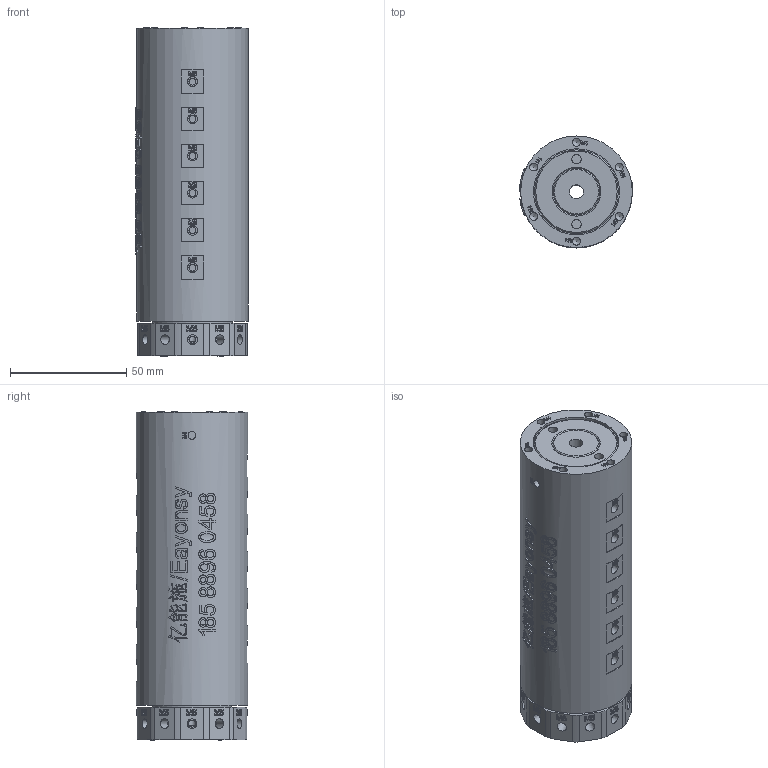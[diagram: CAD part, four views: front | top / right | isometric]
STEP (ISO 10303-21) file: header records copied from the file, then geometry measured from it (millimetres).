
FILE_DESCRIPTION(/* description */ (''),/* implementation_level */ '2;1');
FILE_NAME(/* name */ 'YQ12005-3D模型.stp',/* time_stamp */ '2025-09-05T17:21:30+08:00',/* author */ (''),/* organization */ (''),/* preprocessor_version */ 'ST-DEVELOPER v16.7',/* originating_system */ 'SIEMENS PLM Software NX 12.0',/* authorisation */ '');
FILE_SCHEMA (('AUTOMOTIVE_DESIGN { 1 0 10303 214 3 1 1 1 }'));
Products named in the file (1): AdmiE6DC186D3rre
Bounding box: 48.59 x 48 x 141.4 mm (x, y, z)
Volume: 244320 mm3; surface area: 36947.7 mm2
Topology: 1 solids, 1 shells, 2283 faces, 6276 edges, 4180 vertices
Faces by surface type: plane 1131, extrusion 882, cylinder 156, bspline 101, cone 13
Full cylindrical faces by diameter (mm): 3 x36, 3.4 x12, 4 x2, 4.1 x12, 4.2 x36, 6 x1, 34 x1, 37 x1, 48 x1
Entity records: 84044 total; most frequent: CARTESIAN_POINT 34447, ORIENTED_EDGE 12130, DIRECTION 6142, EDGE_CURVE 6065, B_SPLINE_CURVE_WITH_KNOTS 4706, VERTEX_POINT 4107, VECTOR 2682, EDGE_LOOP 2598
